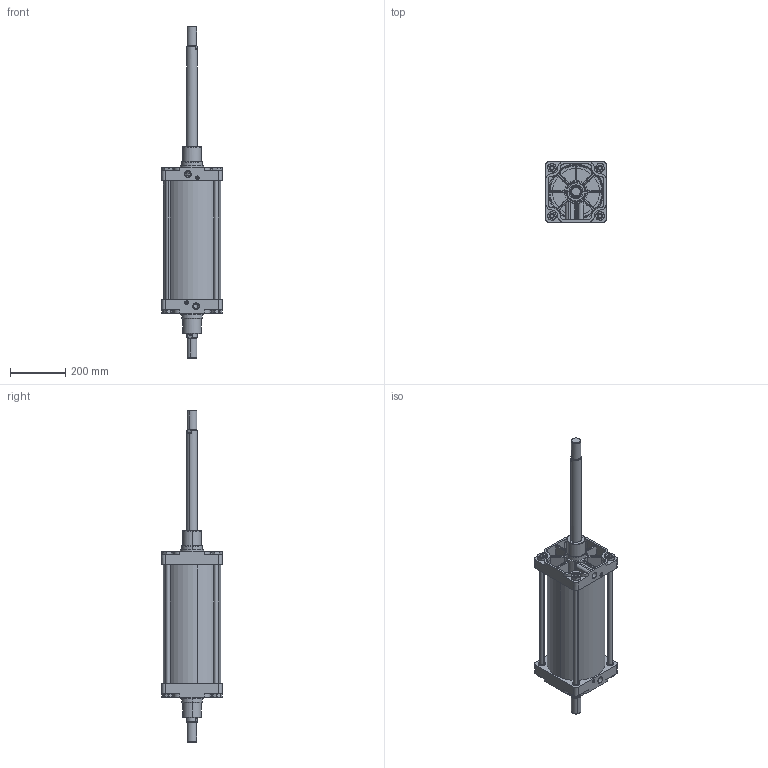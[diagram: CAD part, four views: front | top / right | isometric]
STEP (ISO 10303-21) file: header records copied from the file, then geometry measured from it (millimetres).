
FILE_DESCRIPTION (( 'STEP AP203' ), '1' );
FILE_NAME ('SC200X350ÇÝFT-MÝLLÝ-CYLÝNDER.STEP', '2015-04-02T10:11:06', ( 'user' ), ( '' ), 'SwSTEP 2.0', 'SolidWorks 2013', '' );
FILE_SCHEMA (( 'CONFIG_CONTROL_DESIGN' ));
Length unit declared in the file: millimetre
Products named in the file (8): SC 200x350 BORU; SC Piston Mili 200x350; SC 200x350 SAPLAMA; SC SAPLAMA SOMUN 200; SC SAPLAMA PÐSTON MÐLÐ 200x350; SC200X350ÇÝFT-MÝLLÝ-CYLÝNDER; SC =N KAPAK  200; SC ORTA PÐSTON +ÐFT MÐLLÐ  200
Assembly tree (18 placements, depth 2):
  SC200X350ÇÝFT-MÝLLÝ-CYLÝNDER
    SC =N KAPAK  200  x2
    SC ORTA PÐSTON +ÐFT MÐLLÐ  200
    SC 200x350 BORU
    SC Piston Mili 200x350
    SC 200x350 SAPLAMA  x4
    SC SAPLAMA SOMUN 200  x8
    SC SAPLAMA PÐSTON MÐLÐ 200x350
Bounding box: 220 x 220 x 1206 mm (x, y, z)
Volume: 6563877.7 mm3; surface area: 1675497.7 mm2
Topology: 18 solids, 18 shells, 1767 faces, 4357 edges, 2705 vertices
Faces by surface type: cylinder 584, plane 422, bspline 384, cone 377
Entity records: 70109 total; most frequent: CARTESIAN_POINT 48590, ORIENTED_EDGE 4722, DIRECTION 3607, EDGE_CURVE 2361, VERTEX_POINT 1464, AXIS2_PLACEMENT_3D 1432, EDGE_LOOP 1033, ADVANCED_FACE 958
